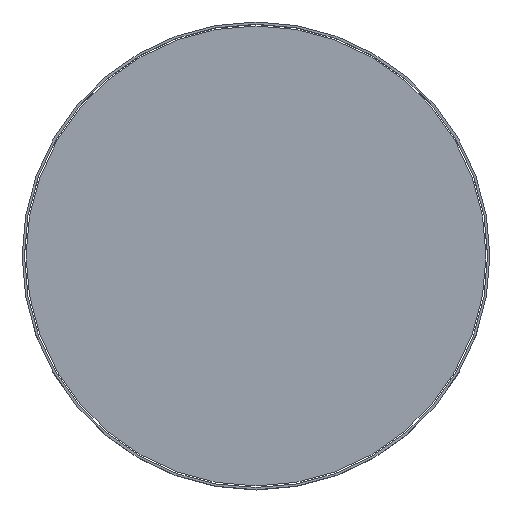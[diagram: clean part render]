
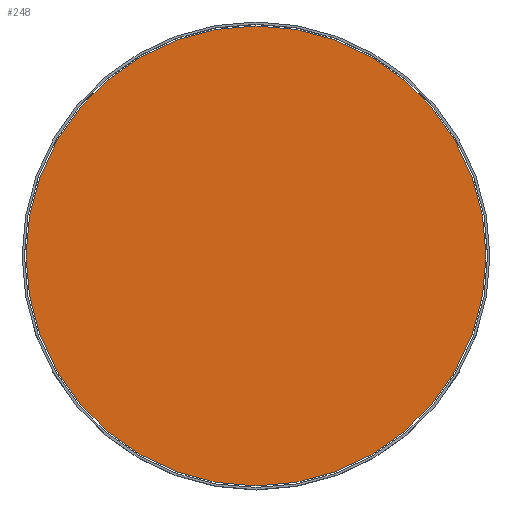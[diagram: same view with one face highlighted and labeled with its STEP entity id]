
A CAD part, top view. The second image highlights one B-rep face of the part: STEP entity #248.
In plain terms, the highlighted planar face has unit normal (0, 0, 1).
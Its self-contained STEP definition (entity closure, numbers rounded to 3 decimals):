
#49=PLANE('',#286);
#92=FACE_OUTER_BOUND('',#122,.T.);
#122=EDGE_LOOP('',(#226));
#134=CIRCLE('',#284,295.);
#154=VERTEX_POINT('',#414);
#178=EDGE_CURVE('',#154,#154,#134,.T.);
#226=ORIENTED_EDGE('',*,*,#178,.F.);
#248=ADVANCED_FACE('',(#92),#49,.T.);
#284=AXIS2_PLACEMENT_3D('',#415,#351,#352);
#286=AXIS2_PLACEMENT_3D('',#417,#355,#356);
#351=DIRECTION('center_axis',(0.,0.,-1.));
#352=DIRECTION('ref_axis',(-1.,0.,0.));
#355=DIRECTION('center_axis',(0.,0.,1.));
#356=DIRECTION('ref_axis',(1.,0.,0.));
#414=CARTESIAN_POINT('',(295.,0.,140.));
#415=CARTESIAN_POINT('Origin',(0.,0.,140.));
#417=CARTESIAN_POINT('Origin',(0.,0.,
140.));
